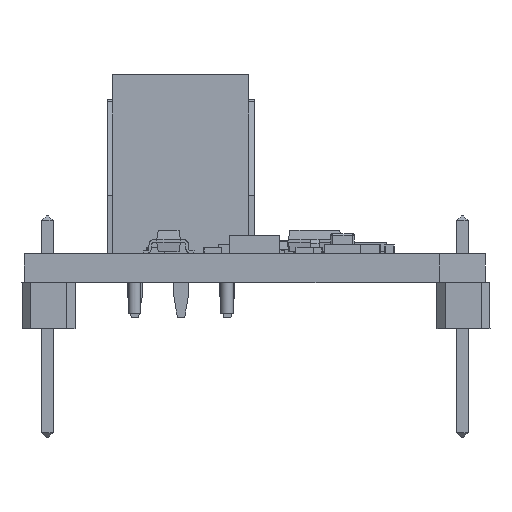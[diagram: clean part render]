
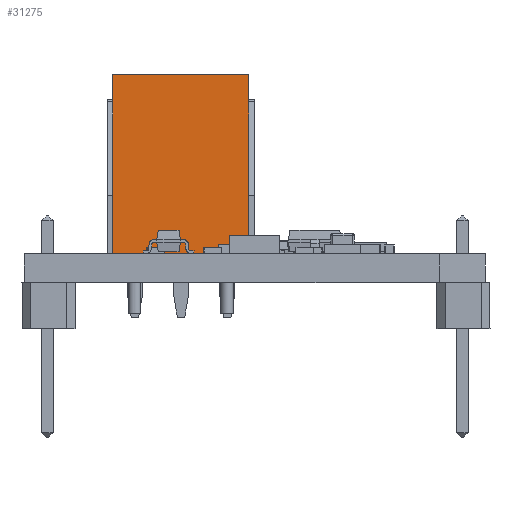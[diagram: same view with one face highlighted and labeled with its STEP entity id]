
A CAD part, front view. The second image highlights one B-rep face of the part: STEP entity #31275.
In plain terms, the highlighted planar face has unit normal (0, -1, 0).
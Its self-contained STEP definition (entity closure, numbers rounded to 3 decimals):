
#31250 = VERTEX_POINT('',#31251);
#31251 = CARTESIAN_POINT('',(-3.75,-6.25,9.85));
#31257 = EDGE_CURVE('',#31258,#31250,#31260,.T.);
#31258 = VERTEX_POINT('',#31259);
#31259 = CARTESIAN_POINT('',(-3.75,-6.25,0.));
#31260 = LINE('',#31261,#31262);
#31261 = CARTESIAN_POINT('',(-3.75,-6.25,0.));
#31262 = VECTOR('',#31263,1.);
#31263 = DIRECTION('',(0.,0.,1.));
#31275 = ADVANCED_FACE('',(#31276),#31301,.F.);
#31276 = FACE_BOUND('',#31277,.F.);
#31277 = EDGE_LOOP('',(#31278,#31279,#31287,#31295));
#31278 = ORIENTED_EDGE('',*,*,#31257,.T.);
#31279 = ORIENTED_EDGE('',*,*,#31280,.T.);
#31280 = EDGE_CURVE('',#31250,#31281,#31283,.T.);
#31281 = VERTEX_POINT('',#31282);
#31282 = CARTESIAN_POINT('',(3.75,-6.25,9.85));
#31283 = LINE('',#31284,#31285);
#31284 = CARTESIAN_POINT('',(-3.75,-6.25,9.85));
#31285 = VECTOR('',#31286,1.);
#31286 = DIRECTION('',(1.,0.,0.));
#31287 = ORIENTED_EDGE('',*,*,#31288,.F.);
#31288 = EDGE_CURVE('',#31289,#31281,#31291,.T.);
#31289 = VERTEX_POINT('',#31290);
#31290 = CARTESIAN_POINT('',(3.75,-6.25,0.));
#31291 = LINE('',#31292,#31293);
#31292 = CARTESIAN_POINT('',(3.75,-6.25,0.));
#31293 = VECTOR('',#31294,1.);
#31294 = DIRECTION('',(0.,0.,1.));
#31295 = ORIENTED_EDGE('',*,*,#31296,.F.);
#31296 = EDGE_CURVE('',#31258,#31289,#31297,.T.);
#31297 = LINE('',#31298,#31299);
#31298 = CARTESIAN_POINT('',(-3.75,-6.25,0.));
#31299 = VECTOR('',#31300,1.);
#31300 = DIRECTION('',(1.,0.,0.));
#31301 = PLANE('',#31302);
#31302 = AXIS2_PLACEMENT_3D('',#31303,#31304,#31305);
#31303 = CARTESIAN_POINT('',(-3.75,-6.25,0.));
#31304 = DIRECTION('',(0.,1.,0.));
#31305 = DIRECTION('',(1.,0.,0.));
